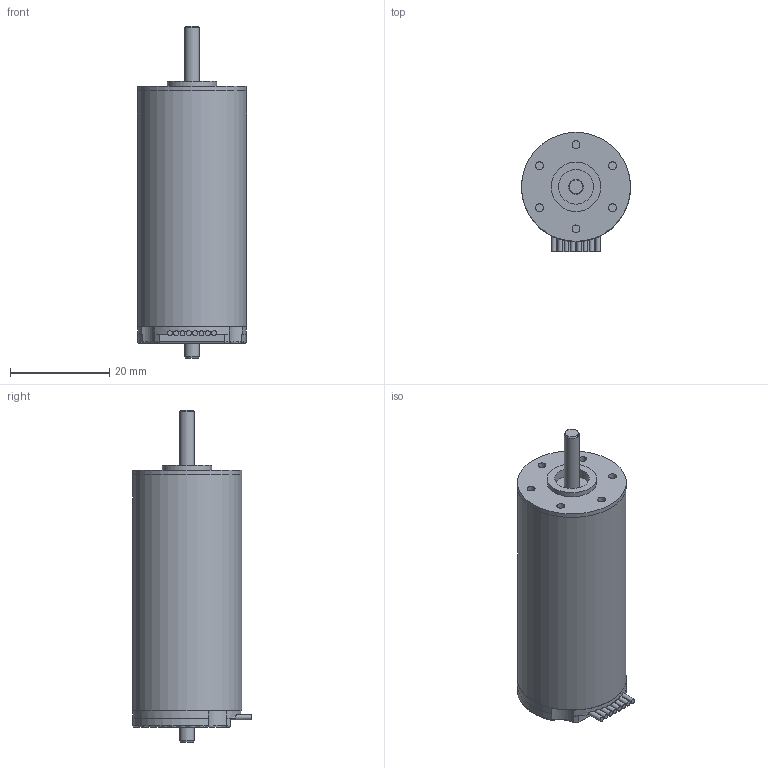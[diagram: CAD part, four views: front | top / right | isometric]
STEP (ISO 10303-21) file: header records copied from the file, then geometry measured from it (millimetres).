
FILE_DESCRIPTION(/* description */ (''),/* implementation_level */ '2;1');
FILE_NAME(/* name */ '2250.BX4.stp',/* time_stamp */ '2012-10-31T10:33:24+01:00',/* author */ ('DR. FRITZ FAULHABER GmbH & Co. KG'),/* organization */ ('DR. FRITZ FAULHABER GmbH & Co. KG'),/* preprocessor_version */ 'ST-DEVELOPER v11',/* originating_system */ 'SIEMENS PLM Software NX 7.5',/* authorisation */ '');
FILE_SCHEMA (('AUTOMOTIVE_DESIGN { 1 0 10303 214 1 1 1 1 }'));
Length unit declared in the file: millimetre
Products named in the file (1): 2250.BX4
Bounding box: 22 x 24 x 67 mm (x, y, z)
Volume: 19693.4 mm3; surface area: 4757.6 mm2
Topology: 1 solids, 1 shells, 102 faces, 248 edges, 162 vertices
Faces by surface type: plane 57, cylinder 37, torus 6, cone 2
Full cylindrical faces by diameter (mm): 1.6 x6, 3 x2, 7 x1, 9.1 x1, 10 x1, 21.99 x2, 22 x2
Entity records: 3151 total; most frequent: CARTESIAN_POINT 739, DIRECTION 527, ORIENTED_EDGE 452, EDGE_CURVE 226, AXIS2_PLACEMENT_3D 212, VERTEX_POINT 158, EDGE_LOOP 134, CIRCLE 109
